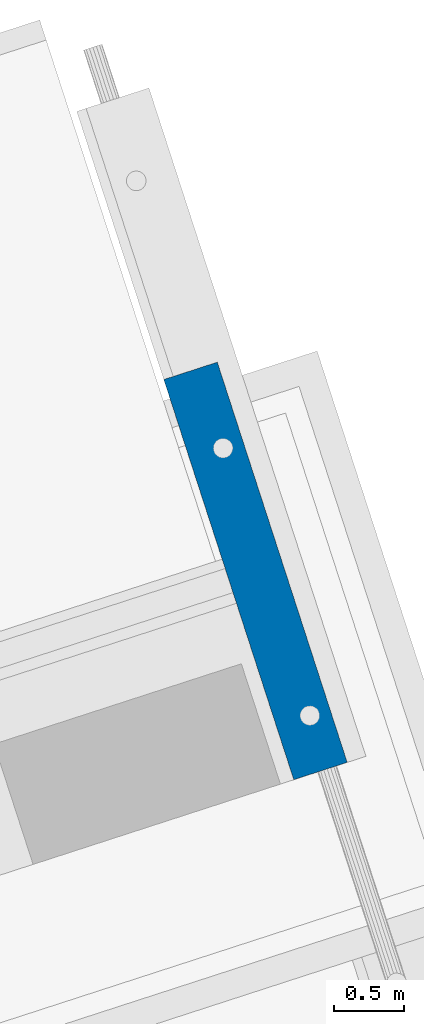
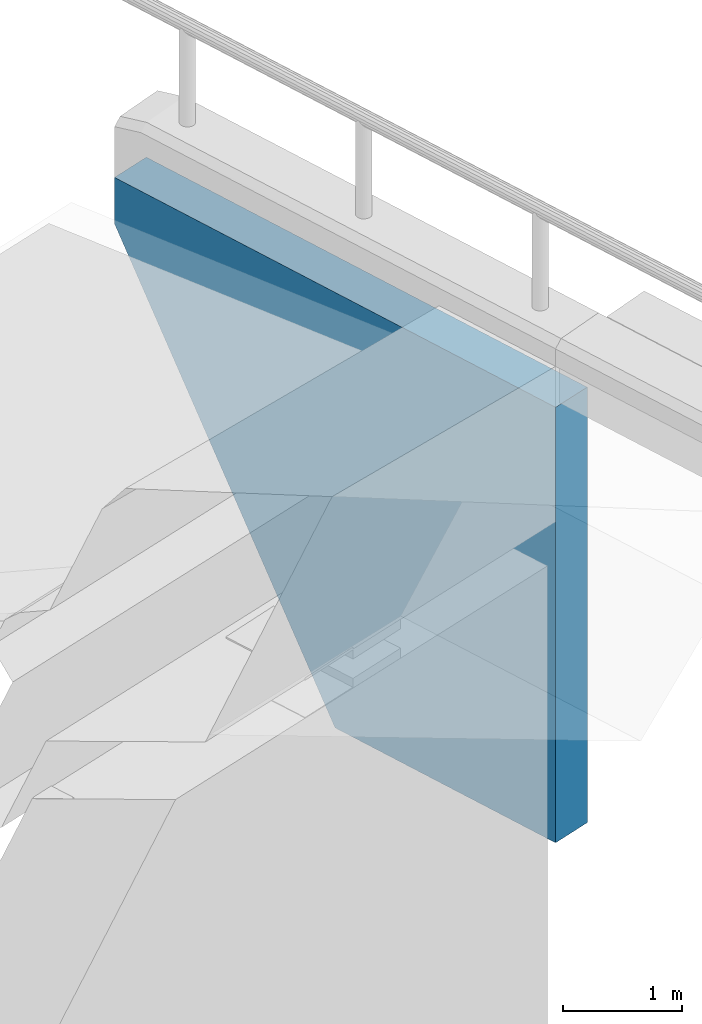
# Not in any storey, part 9 of 10: 1 wall.
"""IFC4X3_ADD2 model written with IfcOpenShell, lengths in metres."""

from ifc_helpers import new_model, entity, si_unit, converted_unit, derived_unit, direction, frame, origin, origin_2d, place, context, subcontext, project, library, spatial, polygons, element, save


model = new_model("IFC4X3_ADD2")

# Units and contexts
model_context = context("Model", 3, precision=1e-05, world=origin(), true_north=direction((-0.011993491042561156, 0.9999280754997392)))
plan_context = context("Plan", 2, precision=1e-05, world=origin_2d())
body_context = subcontext(model_context, "Body", "Model", "MODEL_VIEW")
ifc_project = project(units=[si_unit("LENGTHUNIT", "METRE"), si_unit("AREAUNIT", "SQUARE_METRE"), si_unit("VOLUMEUNIT", "CUBIC_METRE"), si_unit("MASSUNIT", "GRAM", prefix="KILO"), converted_unit("TIMEUNIT", "year", entity("IfcTimeMeasure", 31557600.0), si_unit("TIMEUNIT", "SECOND"), dimensions=[0, 0, 1, 0, 0, 0, 0]), si_unit("PLANEANGLEUNIT", "RADIAN"), si_unit("THERMODYNAMICTEMPERATUREUNIT", "DEGREE_CELSIUS"), si_unit("FORCEUNIT", "NEWTON", prefix="KILO"), si_unit("PRESSUREUNIT", "PASCAL", prefix="MEGA"), si_unit("SOLIDANGLEUNIT", "STERADIAN"), derived_unit("MASSDENSITYUNIT", [(si_unit("MASSUNIT", "GRAM", prefix="KILO"), 1), (si_unit("VOLUMEUNIT", "CUBIC_METRE"), -1)]), derived_unit("MODULUSOFELASTICITYUNIT", [(si_unit("PRESSUREUNIT", "PASCAL", prefix="MEGA"), 1)]), derived_unit("THERMALEXPANSIONCOEFFICIENTUNIT", [(si_unit("THERMODYNAMICTEMPERATUREUNIT", "DEGREE_CELSIUS"), -1)])], contexts=[model_context, plan_context])
project_library = library(declared=ifc_project)

# Site, bridge, bridge parts
site_placement = place(None, origin())
site = spatial("IfcSite", under=ifc_project, at=site_placement, Name="Site BR-01", CompositionType="ELEMENT")
bridge_placement = place(site_placement, origin())
bridge = spatial("IfcBridge", under=site, at=bridge_placement, Name="BR-01", CompositionType="ELEMENT", PredefinedType="USERDEFINED")
bridge_part_1_placement = place(bridge_placement, origin())
bridge_part_1 = spatial("IfcBridgePart", under=bridge, at=bridge_part_1_placement, Name="Substructure", CompositionType="ELEMENT", PredefinedType="SUBSTRUCTURE", UsageType="VERTICAL")
bridge_part_2_placement = place(bridge_part_1_placement, frame((0.0, 0.0, 55.75)))
bridge_part_2 = spatial("IfcBridgePart", under=bridge_part_1, at=bridge_part_2_placement, Name="A1", CompositionType="ELEMENT", PredefinedType="ABUTMENT", UsageType="VERTICAL")

# Wall
wall_placement = place(bridge_part_2_placement, frame((18.277849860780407, 116.87269300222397, 4.017238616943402), z_axis=(0.0, 0.0, 1.0), x_axis=(0.3088039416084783, -0.951125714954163, 0.0)))
element("IfcWall", 1, at=wall_placement, inside=bridge_part_2, Name="Wing wall A1 left", ObjectType="WINGWALL", PredefinedType="USERDEFINED", context=body_context, shape_type="Tessellation", body=[
    polygons([(-2.49998, -0.19999, 4.50075), (-1.24999, -0.2, 3.87556), (0.0, -0.2, 4.48966), (-1.87498, -0.2, 4.12833), (-1.87498, -0.2, 3.75869), (-2.49998, -0.19999, 4.02218), (-1.87498, -0.2, 3.38905), (-0.62499, -0.2, 3.62279), (-0.62499, -0.2, 2.75315), (0.0, -0.2, 0.01109), (-0.62499, -0.2, 1.88351), (-1.24999, -0.2, 2.63628), (-1.24999, -0.2, 3.25592), (-1.24999, -0.1, 2.01664), (-1.87498, -0.09999, 3.01941), (-1.87498, 0.0, 3.01941), (-2.49998, 0.20001, 4.02218), (-1.87498, 0.10001, 3.01941), (-0.625, -0.1, 1.01386), (-0.62499, 0.0, 1.01386), (0.0, 0.2, 0.01109), (-0.625, 0.1, 1.01386), (-1.24999, 0.1, 2.01664), (-1.24999, 0.0, 2.01664), (-1.24999, 0.2, 2.63628), (-1.87498, 0.2, 3.38905), (-1.87498, 0.2, 3.75869), (-2.49998, 0.20001, 4.50075), (-1.87498, 0.2, 4.12833), (-0.62499, 0.2, 1.88351), (-0.62499, 0.2, 2.75315), (0.0, 0.2, 4.48966), (-0.62499, 0.2, 3.62279), (-1.24999, 0.2, 3.87556), (-1.24999, 0.2, 3.25592), (1.24998, -0.2, 3.36448), (2.49998, -0.20001, 4.47857), (0.62499, -0.2, 3.36724), (0.62499, -0.2, 2.2476), (0.62499, -0.2, 1.12796), (1.24998, -0.2, 1.12519), (1.87498, -0.2, 3.3617), (1.87498, -0.2, 2.24206), (2.49998, -0.20001, 0.0), (1.87498, -0.2, 1.12242), (1.24998, -0.2, 2.24483), (1.24999, -0.1, 0.00555), (0.62499, -0.1, 0.00832), (0.62499, 0.0, 0.00832), (0.62499, 0.1, 0.00832), (1.24999, 0.1, 0.00555), (1.87498, -0.1, 0.00277), (1.87498, 0.0, 0.00277), (2.49997, 0.19999, 0.0), (1.87498, 0.1, 0.00277), (1.24998, 0.0, 0.00555), (1.24999, 0.2, 1.12519), (0.625, 0.2, 1.12796), (0.625, 0.2, 2.2476), (0.625, 0.2, 3.36724), (1.24999, 0.2, 3.36448), (1.87498, 0.19999, 1.12242), (1.87498, 0.19999, 2.24206), (2.49997, 0.19999, 4.47857), (1.87498, 0.19999, 3.3617), (1.24999, 0.2, 2.24483), (-1.24999, 0.1, 4.4952), (-1.87498, 0.10001, 4.49798), (-1.87498, 0.0, 4.49798), (-1.87498, -0.09999, 4.49798), (-0.625, 0.1, 4.49244), (-0.62499, 0.0, 4.49244), (-0.625, -0.1, 4.49244), (-1.24999, -0.1, 4.4952), (-1.24999, 0.0, 4.4952), (1.24999, 0.1, 4.48412), (0.62499, 0.1, 4.48689), (0.62499, 0.0, 4.48689), (0.62499, -0.1, 4.48689), (1.24999, -0.1, 4.48412), (1.87498, 0.1, 4.48134), (1.87498, 0.0, 4.48134), (1.87498, -0.1, 4.48134), (1.24998, 0.0, 4.48412)], [[[1, 2, 3]], [[4, 1, 5]], [[4, 2, 1]], [[6, 5, 1]], [[6, 7, 5]], [[8, 3, 2]], [[3, 9, 10]], [[9, 3, 8]], [[11, 10, 9]], [[12, 7, 6, 10]], [[12, 10, 11]], [[5, 13, 2, 4]], [[7, 12, 13, 5]], [[13, 9, 8, 2]], [[12, 11, 9, 13]], [[6, 14, 10]], [[15, 6, 16]], [[15, 14, 6]], [[17, 16, 6]], [[17, 18, 16]], [[19, 10, 14]], [[10, 20, 21]], [[20, 10, 19]], [[22, 21, 20]], [[23, 18, 17, 21]], [[23, 21, 22]], [[16, 24, 14, 15]], [[18, 23, 24, 16]], [[24, 20, 19, 14]], [[23, 22, 20, 24]], [[17, 25, 21]], [[26, 17, 27]], [[26, 25, 17]], [[28, 27, 17]], [[28, 29, 27]], [[30, 21, 25]], [[21, 31, 32]], [[31, 21, 30]], [[33, 32, 31]], [[34, 29, 28, 32]], [[34, 32, 33]], [[27, 35, 25, 26]], [[29, 34, 35, 27]], [[35, 31, 30, 25]], [[34, 33, 31, 35]], [[3, 36, 37]], [[38, 3, 39]], [[38, 36, 3]], [[10, 39, 3]], [[40, 10, 41]], [[10, 40, 39]], [[42, 37, 36]], [[37, 43, 44]], [[43, 37, 42]], [[45, 44, 43]], [[44, 41, 10]], [[41, 44, 45]], [[39, 46, 36, 38]], [[40, 41, 46, 39]], [[46, 43, 42, 36]], [[41, 45, 43, 46]], [[10, 47, 44]], [[48, 10, 49]], [[48, 47, 10]], [[21, 49, 10]], [[50, 21, 51]], [[21, 50, 49]], [[52, 44, 47]], [[44, 53, 54]], [[53, 44, 52]], [[55, 54, 53]], [[54, 51, 21]], [[51, 54, 55]], [[49, 56, 47, 48]], [[50, 51, 56, 49]], [[56, 53, 52, 47]], [[51, 55, 53, 56]], [[21, 57, 54]], [[58, 21, 59]], [[58, 57, 21]], [[32, 59, 21]], [[60, 32, 61]], [[32, 60, 59]], [[62, 54, 57]], [[54, 63, 64]], [[63, 54, 62]], [[65, 64, 63]], [[64, 61, 32]], [[61, 64, 65]], [[59, 66, 57, 58]], [[60, 61, 66, 59]], [[66, 63, 62, 57]], [[61, 65, 63, 66]], [[28, 67, 32]], [[68, 67, 28]], [[69, 68, 28, 1]], [[1, 70, 69]], [[71, 32, 67]], [[32, 72, 3]], [[72, 32, 71]], [[73, 3, 72]], [[74, 70, 1, 3]], [[74, 3, 73]], [[69, 75, 67, 68]], [[70, 74, 75, 69]], [[75, 72, 71, 67]], [[74, 73, 72, 75]], [[44, 54, 64, 37]], [[1, 28, 17, 6]], [[32, 76, 64]], [[77, 32, 78]], [[77, 76, 32]], [[3, 78, 32]], [[79, 3, 80]], [[3, 79, 78]], [[81, 64, 76]], [[64, 82, 37]], [[82, 64, 81]], [[83, 37, 82]], [[37, 80, 3]], [[80, 37, 83]], [[78, 84, 76, 77]], [[79, 80, 84, 78]], [[84, 82, 81, 76]], [[80, 83, 82, 84]]], closed=True),
])

save(model, "model.ifc")
